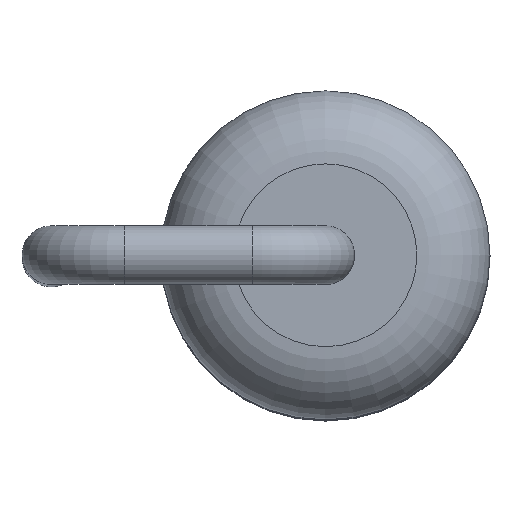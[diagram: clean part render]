
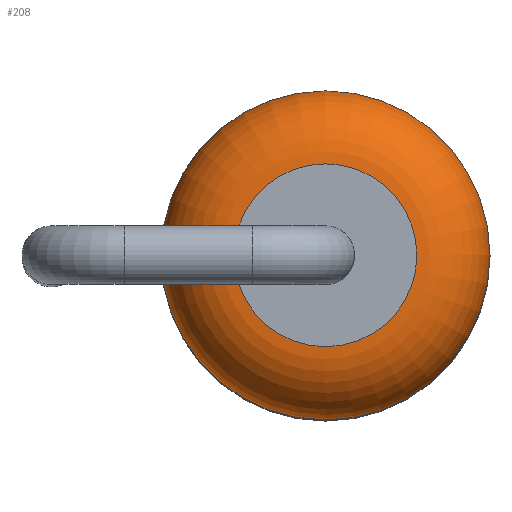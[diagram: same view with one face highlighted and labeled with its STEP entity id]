
A CAD part, top view. The second image highlights one B-rep face of the part: STEP entity #208.
In plain terms, the highlighted toroidal (fillet/blend) face has major radius 1.25 mm and minor radius 1 mm.
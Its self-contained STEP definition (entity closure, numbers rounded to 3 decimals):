
#208=ADVANCED_FACE('',(#377,#379),#381,.T.);
#377=FACE_OUTER_BOUND('',#378,.T.);
#378=EDGE_LOOP('',(#468));
#379=FACE_OUTER_BOUND('',#380,.T.);
#380=EDGE_LOOP('',(#469));
#381=TOROIDAL_SURFACE('',#382,1.25,1.);
#382=AXIS2_PLACEMENT_3D('',#383,#384,#385);
#383=CARTESIAN_POINT('',(0.,0.,4.75));
#384=DIRECTION('',(0.,0.,-1.));
#385=DIRECTION('',(-1.,0.,0.));
#468=ORIENTED_EDGE('',*,*,#494,.T.);
#469=ORIENTED_EDGE('',*,*,#493,.F.);
#493=EDGE_CURVE('',#521,#521,#522,.T.);
#494=EDGE_CURVE('',#523,#523,#524,.T.);
#521=VERTEX_POINT('',#587);
#522=CIRCLE('',#588,2.25);
#523=VERTEX_POINT('',#592);
#524=CIRCLE('',#593,1.25);
#587=CARTESIAN_POINT('',(-2.25,0.,4.75));
#588=AXIS2_PLACEMENT_3D('',#589,#590,#591);
#589=CARTESIAN_POINT('',(0.,0.,4.75));
#590=DIRECTION('',(0.,0.,-1.));
#591=DIRECTION('',(-1.,0.,0.));
#592=CARTESIAN_POINT('',(-1.25,0.,5.75));
#593=AXIS2_PLACEMENT_3D('',#594,#595,#596);
#594=CARTESIAN_POINT('',(0.,0.,5.75));
#595=DIRECTION('',(0.,0.,-1.));
#596=DIRECTION('',(-1.,0.,0.));
